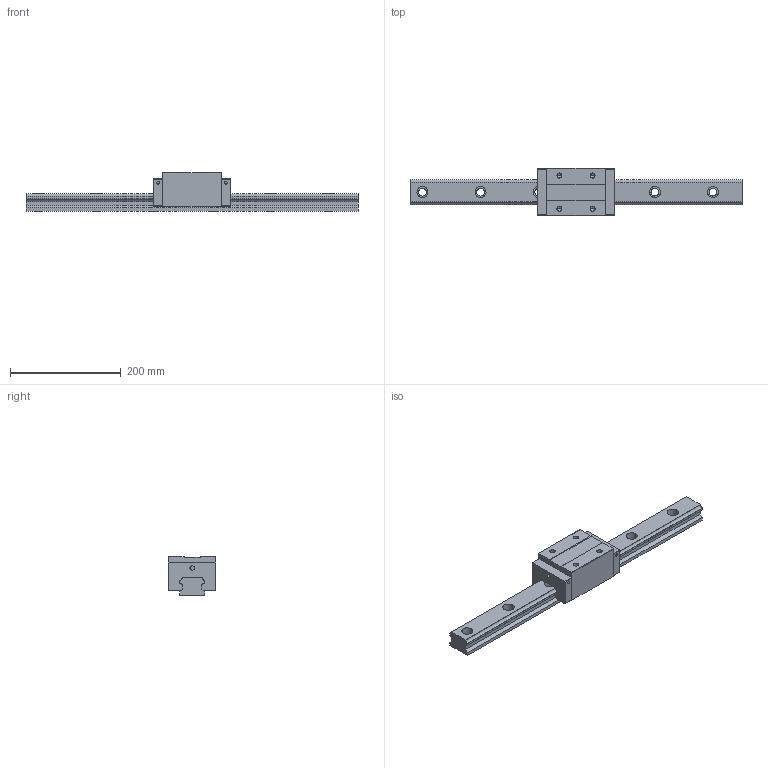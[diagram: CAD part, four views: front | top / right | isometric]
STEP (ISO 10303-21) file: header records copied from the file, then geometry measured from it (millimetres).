
FILE_DESCRIPTION (( 'STEP AP203' ), '1' );
FILE_NAME ('TRH45VL-XN.STEP', '2024-05-17T07:35:25', ( '' ), ( '' ), 'SwSTEP 2.0', 'SolidWorks 2022', '' );
FILE_SCHEMA (( 'CONFIG_CONTROL_DESIGN' ));
Length unit declared in the file: millimetre
Products named in the file (1): TRH45VL-XN
Bounding box: 600 x 85.5 x 70 mm (x, y, z)
Volume: 1277789.6 mm3; surface area: 165541.3 mm2
Topology: 2 solids, 2 shells, 180 faces, 472 edges, 304 vertices
Faces by surface type: plane 84, cylinder 80, cone 16
Entity records: 5607 total; most frequent: DIRECTION 994, CARTESIAN_POINT 949, ORIENTED_EDGE 928, EDGE_CURVE 464, AXIS2_PLACEMENT_3D 349, VERTEX_POINT 304, VECTOR 296, LINE 296
